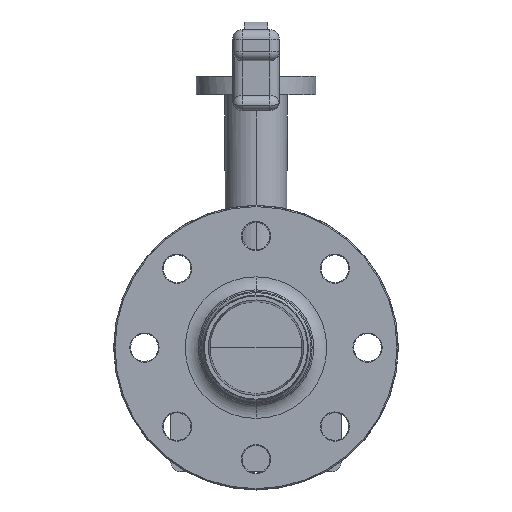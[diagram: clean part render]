
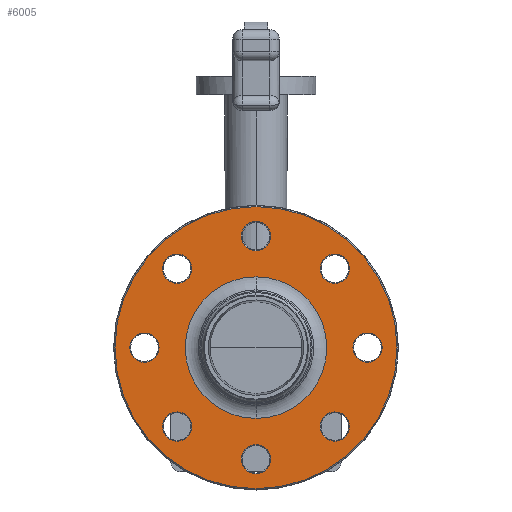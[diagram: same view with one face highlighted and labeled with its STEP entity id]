
A CAD part, front view. The second image highlights one B-rep face of the part: STEP entity #6005.
In plain terms, the highlighted planar face has unit normal (0, -1, 0).
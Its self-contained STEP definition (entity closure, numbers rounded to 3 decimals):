
#868=CARTESIAN_POINT('',(0.,-141.281,0.));
#869=DIRECTION('',(0.,1.,0.));
#870=DIRECTION('',(0.,0.,-1.));
#871=AXIS2_PLACEMENT_3D('',#868,#869,#870);
#876=CARTESIAN_POINT('',(0.,-141.281,0.));
#877=DIRECTION('',(0.,1.,0.));
#878=DIRECTION('',(0.,0.,1.));
#879=AXIS2_PLACEMENT_3D('',#876,#877,#878);
#884=CARTESIAN_POINT('',(50.885,-141.281,-50.885));
#885=DIRECTION('',(0.,-1.,0.));
#886=DIRECTION('',(0.,0.,-1.));
#887=AXIS2_PLACEMENT_3D('',#884,#885,#886);
#892=CARTESIAN_POINT('',(50.885,-141.281,-50.885));
#893=DIRECTION('',(0.,-1.,0.));
#894=DIRECTION('',(0.,0.,1.));
#895=AXIS2_PLACEMENT_3D('',#892,#893,#894);
#900=CARTESIAN_POINT('',(71.963,-141.281,0.));
#901=DIRECTION('',(0.,-1.,0.));
#902=DIRECTION('',(0.,0.,-1.));
#903=AXIS2_PLACEMENT_3D('',#900,#901,#902);
#908=CARTESIAN_POINT('',(71.963,-141.281,0.));
#909=DIRECTION('',(0.,-1.,0.));
#910=DIRECTION('',(0.,0.,1.));
#911=AXIS2_PLACEMENT_3D('',#908,#909,#910);
#916=CARTESIAN_POINT('',(50.885,-141.281,50.885));
#917=DIRECTION('',(0.,-1.,0.));
#918=DIRECTION('',(0.,0.,-1.));
#919=AXIS2_PLACEMENT_3D('',#916,#917,#918);
#924=CARTESIAN_POINT('',(50.885,-141.281,50.885));
#925=DIRECTION('',(0.,-1.,0.));
#926=DIRECTION('',(0.,0.,1.));
#927=AXIS2_PLACEMENT_3D('',#924,#925,#926);
#932=CARTESIAN_POINT('',(0.,-141.281,71.963));
#933=DIRECTION('',(0.,-1.,0.));
#934=DIRECTION('',(0.,0.,-1.));
#935=AXIS2_PLACEMENT_3D('',#932,#933,#934);
#940=CARTESIAN_POINT('',(0.,-141.281,71.963));
#941=DIRECTION('',(0.,-1.,0.));
#942=DIRECTION('',(0.,0.,1.));
#943=AXIS2_PLACEMENT_3D('',#940,#941,#942);
#948=CARTESIAN_POINT('',(-50.885,-141.281,50.885));
#949=DIRECTION('',(0.,-1.,0.));
#950=DIRECTION('',(0.,0.,-1.));
#951=AXIS2_PLACEMENT_3D('',#948,#949,#950);
#956=CARTESIAN_POINT('',(-50.885,-141.281,50.885));
#957=DIRECTION('',(0.,-1.,0.));
#958=DIRECTION('',(0.,0.,1.));
#959=AXIS2_PLACEMENT_3D('',#956,#957,#958);
#964=CARTESIAN_POINT('',(-71.963,-141.281,0.));
#965=DIRECTION('',(0.,-1.,0.));
#966=DIRECTION('',(0.,0.,-1.));
#967=AXIS2_PLACEMENT_3D('',#964,#965,#966);
#972=CARTESIAN_POINT('',(-71.963,-141.281,0.));
#973=DIRECTION('',(0.,-1.,0.));
#974=DIRECTION('',(0.,0.,1.));
#975=AXIS2_PLACEMENT_3D('',#972,#973,#974);
#980=CARTESIAN_POINT('',(-50.885,-141.281,-50.885));
#981=DIRECTION('',(0.,-1.,0.));
#982=DIRECTION('',(0.,0.,-1.));
#983=AXIS2_PLACEMENT_3D('',#980,#981,#982);
#988=CARTESIAN_POINT('',(-50.885,-141.281,-50.885));
#989=DIRECTION('',(0.,-1.,0.));
#990=DIRECTION('',(0.,0.,1.));
#991=AXIS2_PLACEMENT_3D('',#988,#989,#990);
#996=CARTESIAN_POINT('',(0.,-141.281,-71.963));
#997=DIRECTION('',(0.,-1.,0.));
#998=DIRECTION('',(0.,0.,-1.));
#999=AXIS2_PLACEMENT_3D('',#996,#997,#998);
#1004=CARTESIAN_POINT('',(0.,-141.281,-71.963));
#1005=DIRECTION('',(0.,-1.,0.));
#1006=DIRECTION('',(0.,0.,1.));
#1007=AXIS2_PLACEMENT_3D('',#1004,#1005,#1006);
#1012=CARTESIAN_POINT('',(0.,-141.281,0.));
#1013=DIRECTION('',(0.,-1.,0.));
#1014=DIRECTION('',(0.,0.,-1.));
#1015=AXIS2_PLACEMENT_3D('',#1012,#1013,#1014);
#1020=CARTESIAN_POINT('',(0.,-141.281,0.));
#1021=DIRECTION('',(0.,-1.,0.));
#1022=DIRECTION('',(0.,0.,1.));
#1023=AXIS2_PLACEMENT_3D('',#1020,#1021,#1022);
#5004=CARTESIAN_POINT('',(-71.963,-141.281,-9.43));
#5005=VERTEX_POINT('',#5004);
#5006=CARTESIAN_POINT('',(-71.963,-141.281,9.43));
#5007=VERTEX_POINT('',#5006);
#5008=CARTESIAN_POINT('',(0.,-141.281,-90.958));
#5009=CARTESIAN_POINT('',(0.,-141.281,90.958));
#5010=VERTEX_POINT('',#5008);
#5011=VERTEX_POINT('',#5009);
#5012=CARTESIAN_POINT('',(50.885,-141.281,-60.315));
#5013=CARTESIAN_POINT('',(50.885,-141.281,-41.456));
#5014=VERTEX_POINT('',#5012);
#5015=VERTEX_POINT('',#5013);
#5016=CARTESIAN_POINT('',(71.963,-141.281,-9.43));
#5017=CARTESIAN_POINT('',(71.963,-141.281,9.43));
#5018=VERTEX_POINT('',#5016);
#5019=VERTEX_POINT('',#5017);
#5020=CARTESIAN_POINT('',(50.885,-141.281,41.456));
#5021=CARTESIAN_POINT('',(50.885,-141.281,60.315));
#5022=VERTEX_POINT('',#5020);
#5023=VERTEX_POINT('',#5021);
#5024=CARTESIAN_POINT('',(0.,-141.281,62.533));
#5025=CARTESIAN_POINT('',(0.,-141.281,81.393));
#5026=VERTEX_POINT('',#5024);
#5027=VERTEX_POINT('',#5025);
#5028=CARTESIAN_POINT('',(-50.885,-141.281,41.456));
#5029=CARTESIAN_POINT('',(-50.885,-141.281,60.315));
#5030=VERTEX_POINT('',#5028);
#5031=VERTEX_POINT('',#5029);
#5032=CARTESIAN_POINT('',(-50.885,-141.281,-60.315));
#5033=CARTESIAN_POINT('',(-50.885,-141.281,-41.456));
#5034=VERTEX_POINT('',#5032);
#5035=VERTEX_POINT('',#5033);
#5036=CARTESIAN_POINT('',(0.,-141.281,-81.393));
#5037=CARTESIAN_POINT('',(0.,-141.281,-62.533));
#5038=VERTEX_POINT('',#5036);
#5039=VERTEX_POINT('',#5037);
#5040=CARTESIAN_POINT('',(0.,-141.281,-45.659));
#5041=CARTESIAN_POINT('',(0.,-141.281,45.659));
#5042=VERTEX_POINT('',#5040);
#5043=VERTEX_POINT('',#5041);
#5941=CARTESIAN_POINT('',(-80.896,-141.281,0.));
#5942=DIRECTION('',(0.,-1.,0.));
#5943=DIRECTION('',(0.,0.,-1.));
#5944=AXIS2_PLACEMENT_3D('',#5941,#5942,#5943);
#5945=PLANE('',#5944);
#5947=ORIENTED_EDGE('',*,*,#5946,.T.);
#5949=ORIENTED_EDGE('',*,*,#5948,.T.);
#5950=EDGE_LOOP('',(#5947,#5949));
#5951=FACE_OUTER_BOUND('',#5950,.F.);
#5953=ORIENTED_EDGE('',*,*,#5952,.T.);
#5955=ORIENTED_EDGE('',*,*,#5954,.T.);
#5956=EDGE_LOOP('',(#5953,#5955));
#5957=FACE_BOUND('',#5956,.F.);
#5959=ORIENTED_EDGE('',*,*,#5958,.T.);
#5961=ORIENTED_EDGE('',*,*,#5960,.T.);
#5962=EDGE_LOOP('',(#5959,#5961));
#5963=FACE_BOUND('',#5962,.F.);
#5965=ORIENTED_EDGE('',*,*,#5964,.T.);
#5967=ORIENTED_EDGE('',*,*,#5966,.T.);
#5968=EDGE_LOOP('',(#5965,#5967));
#5969=FACE_BOUND('',#5968,.F.);
#5971=ORIENTED_EDGE('',*,*,#5970,.T.);
#5973=ORIENTED_EDGE('',*,*,#5972,.T.);
#5974=EDGE_LOOP('',(#5971,#5973));
#5975=FACE_BOUND('',#5974,.F.);
#5977=ORIENTED_EDGE('',*,*,#5976,.T.);
#5979=ORIENTED_EDGE('',*,*,#5978,.T.);
#5980=EDGE_LOOP('',(#5977,#5979));
#5981=FACE_BOUND('',#5980,.F.);
#5983=ORIENTED_EDGE('',*,*,#5982,.T.);
#5985=ORIENTED_EDGE('',*,*,#5984,.T.);
#5986=EDGE_LOOP('',(#5983,#5985));
#5987=FACE_BOUND('',#5986,.F.);
#5989=ORIENTED_EDGE('',*,*,#5988,.T.);
#5991=ORIENTED_EDGE('',*,*,#5990,.T.);
#5992=EDGE_LOOP('',(#5989,#5991));
#5993=FACE_BOUND('',#5992,.F.);
#5995=ORIENTED_EDGE('',*,*,#5994,.T.);
#5997=ORIENTED_EDGE('',*,*,#5996,.T.);
#5998=EDGE_LOOP('',(#5995,#5997));
#5999=FACE_BOUND('',#5998,.F.);
#6000=ORIENTED_EDGE('',*,*,#5931,.T.);
#6002=ORIENTED_EDGE('',*,*,#6001,.T.);
#6003=EDGE_LOOP('',(#6000,#6002));
#6004=FACE_BOUND('',#6003,.F.);
#872=CIRCLE('',#871,90.958);
#880=CIRCLE('',#879,90.958);
#888=CIRCLE('',#887,9.43);
#896=CIRCLE('',#895,9.43);
#904=CIRCLE('',#903,9.43);
#912=CIRCLE('',#911,9.43);
#920=CIRCLE('',#919,9.43);
#928=CIRCLE('',#927,9.43);
#936=CIRCLE('',#935,9.43);
#944=CIRCLE('',#943,9.43);
#952=CIRCLE('',#951,9.43);
#960=CIRCLE('',#959,9.43);
#968=CIRCLE('',#967,9.43);
#976=CIRCLE('',#975,9.43);
#984=CIRCLE('',#983,9.43);
#992=CIRCLE('',#991,9.43);
#1000=CIRCLE('',#999,9.43);
#1008=CIRCLE('',#1007,9.43);
#1016=CIRCLE('',#1015,45.659);
#1024=CIRCLE('',#1023,45.659);
#5931=EDGE_CURVE('',#5042,#5043,#1016,.T.);
#5946=EDGE_CURVE('',#5010,#5011,#872,.T.);
#5948=EDGE_CURVE('',#5011,#5010,#880,.T.);
#5952=EDGE_CURVE('',#5014,#5015,#888,.T.);
#5954=EDGE_CURVE('',#5015,#5014,#896,.T.);
#5958=EDGE_CURVE('',#5018,#5019,#904,.T.);
#5960=EDGE_CURVE('',#5019,#5018,#912,.T.);
#5964=EDGE_CURVE('',#5022,#5023,#920,.T.);
#5966=EDGE_CURVE('',#5023,#5022,#928,.T.);
#5970=EDGE_CURVE('',#5026,#5027,#936,.T.);
#5972=EDGE_CURVE('',#5027,#5026,#944,.T.);
#5976=EDGE_CURVE('',#5030,#5031,#952,.T.);
#5978=EDGE_CURVE('',#5031,#5030,#960,.T.);
#5982=EDGE_CURVE('',#5005,#5007,#968,.T.);
#5984=EDGE_CURVE('',#5007,#5005,#976,.T.);
#5988=EDGE_CURVE('',#5034,#5035,#984,.T.);
#5990=EDGE_CURVE('',#5035,#5034,#992,.T.);
#5994=EDGE_CURVE('',#5038,#5039,#1000,.T.);
#5996=EDGE_CURVE('',#5039,#5038,#1008,.T.);
#6001=EDGE_CURVE('',#5043,#5042,#1024,.T.);
#6005=ADVANCED_FACE('',(#5951,#5957,#5963,#5969,#5975,#5981,#5987,#5993,#5999,
#6004),#5945,.T.);
